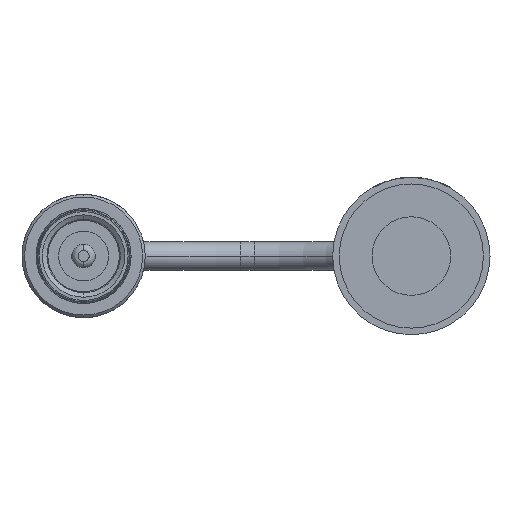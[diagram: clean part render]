
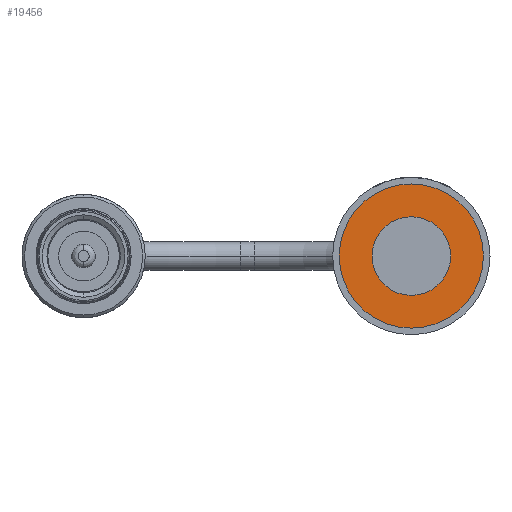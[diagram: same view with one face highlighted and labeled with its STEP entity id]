
A CAD part, front view. The second image highlights one B-rep face of the part: STEP entity #19456.
In plain terms, the highlighted planar face has unit normal (0, -1, 0).
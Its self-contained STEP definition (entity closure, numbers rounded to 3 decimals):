
#5870=CARTESIAN_POINT('',(0.,-19.986,0.));
#5871=DIRECTION('',(0.,-1.,0.));
#5872=DIRECTION('',(-1.,0.,0.));
#5873=AXIS2_PLACEMENT_3D('',#5870,#5871,#5872);
#5878=CARTESIAN_POINT('',(0.,-19.986,0.));
#5879=DIRECTION('',(0.,-1.,0.));
#5880=DIRECTION('',(1.,0.,0.));
#5881=AXIS2_PLACEMENT_3D('',#5878,#5879,#5880);
#5886=CARTESIAN_POINT('',(0.,-19.986,0.));
#5887=DIRECTION('',(0.,1.,0.));
#5888=DIRECTION('',(-1.,0.,0.));
#5889=AXIS2_PLACEMENT_3D('',#5886,#5887,#5888);
#5894=CARTESIAN_POINT('',(0.,-19.986,0.));
#5895=DIRECTION('',(0.,1.,0.));
#5896=DIRECTION('',(1.,0.,0.));
#5897=AXIS2_PLACEMENT_3D('',#5894,#5895,#5896);
#14427=CARTESIAN_POINT('',(-5.5,-19.986,0.));
#14428=CARTESIAN_POINT('',(5.5,-19.986,0.));
#14429=VERTEX_POINT('',#14427);
#14430=VERTEX_POINT('',#14428);
#14431=CARTESIAN_POINT('',(-3.,-19.986,0.));
#14432=CARTESIAN_POINT('',(3.,-19.986,0.));
#14433=VERTEX_POINT('',#14431);
#14434=VERTEX_POINT('',#14432);
#19441=CARTESIAN_POINT('',(0.,-19.986,0.));
#19442=DIRECTION('',(0.,-1.,0.));
#19443=DIRECTION('',(-1.,0.,0.));
#19444=AXIS2_PLACEMENT_3D('',#19441,#19442,#19443);
#19445=PLANE('',#19444);
#19446=ORIENTED_EDGE('',*,*,#19397,.F.);
#19447=ORIENTED_EDGE('',*,*,#19423,.F.);
#19448=EDGE_LOOP('',(#19446,#19447));
#19449=FACE_OUTER_BOUND('',#19448,.F.);
#19451=ORIENTED_EDGE('',*,*,#19450,.F.);
#19453=ORIENTED_EDGE('',*,*,#19452,.F.);
#19454=EDGE_LOOP('',(#19451,#19453));
#19455=FACE_BOUND('',#19454,.F.);
#19456=ADVANCED_FACE('',(#19449,#19455),#19445,.T.);
#5874=CIRCLE('',#5873,5.5);
#5882=CIRCLE('',#5881,5.5);
#5890=CIRCLE('',#5889,3.);
#5898=CIRCLE('',#5897,3.);
#19397=EDGE_CURVE('',#14429,#14430,#5874,.T.);
#19423=EDGE_CURVE('',#14430,#14429,#5882,.T.);
#19450=EDGE_CURVE('',#14433,#14434,#5890,.T.);
#19452=EDGE_CURVE('',#14434,#14433,#5898,.T.);
